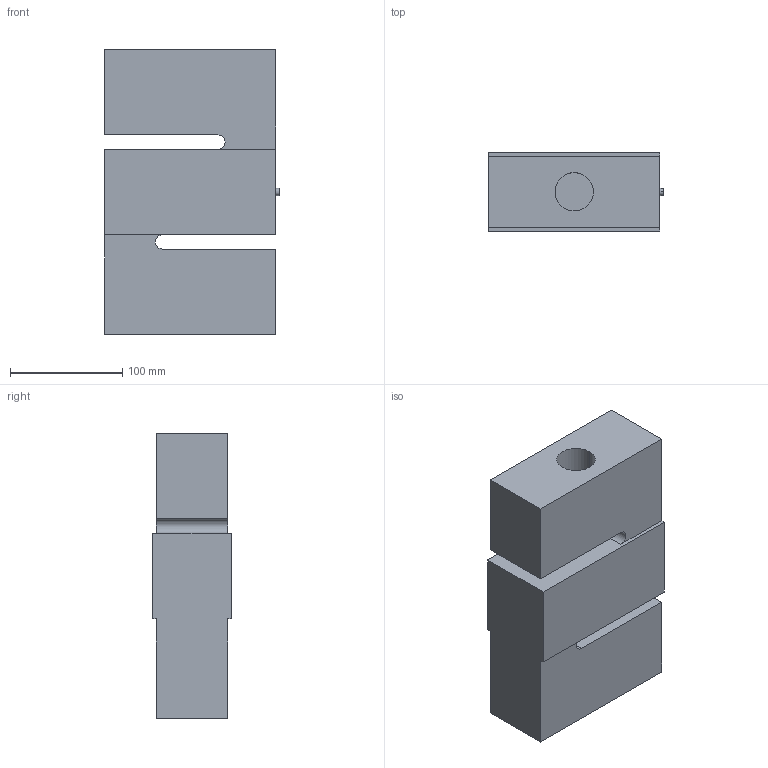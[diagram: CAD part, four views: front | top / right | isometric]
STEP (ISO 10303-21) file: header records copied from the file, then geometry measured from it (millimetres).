
FILE_DESCRIPTION (( 'STEP AP214' ), '1' );
FILE_NAME ('SS1009-40K.STEP', '2014-05-20T18:50:57', ( '' ), ( '' ), 'SwSTEP 2.0', 'SolidWorks 2008', '' );
FILE_SCHEMA (( 'AUTOMOTIVE_DESIGN' ));
Length unit declared in the file: inch
Products named in the file (1): SS1009-40K
Bounding box: 155.57 x 69.85 x 254 mm (x, y, z)
Volume: 2221768.6 mm3; surface area: 165838 mm2
Topology: 1 solids, 1 shells, 25 faces, 66 edges, 44 vertices
Faces by surface type: plane 17, cylinder 8
Entity records: 863 total; most frequent: CARTESIAN_POINT 136, DIRECTION 134, ORIENTED_EDGE 132, EDGE_CURVE 66, VECTOR 50, LINE 50, VERTEX_POINT 44, AXIS2_PLACEMENT_3D 42
